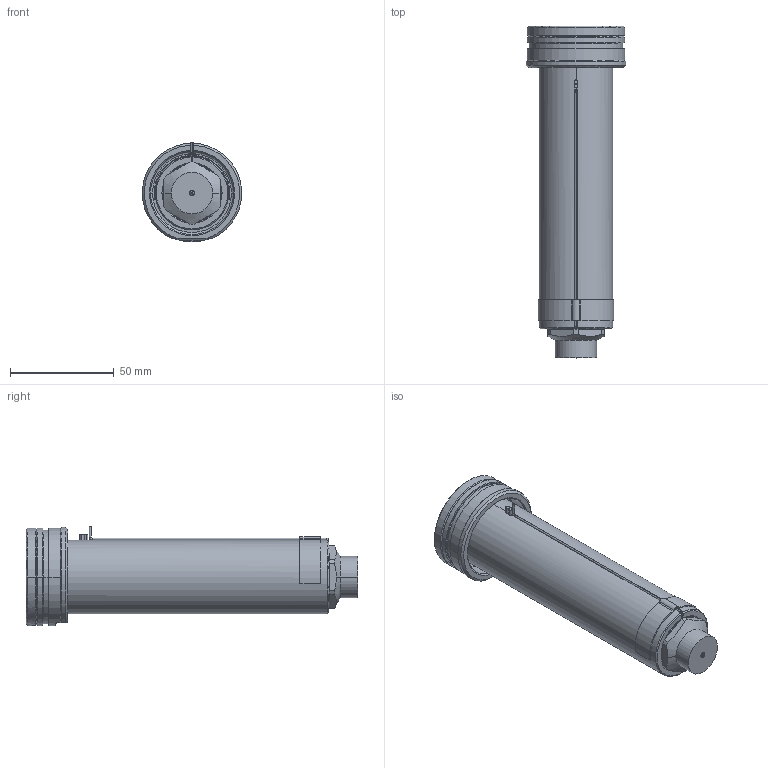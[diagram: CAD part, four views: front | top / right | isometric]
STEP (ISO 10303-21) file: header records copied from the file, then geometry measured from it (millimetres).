
FILE_DESCRIPTION((''),'2;1');
FILE_NAME('EO16_PG-FB_WR_140_SW','2024-02-19T11:43:51',('sundharh'),(''),'CREO PARAMETRIC BY PTC INC, 2023154','CREO PARAMETRIC BY PTC INC, 2023154','');
FILE_SCHEMA(('CONFIG_CONTROL_DESIGN'));
Length unit declared in the file: millimetre
Products named in the file (1): EO16_PG-FB_WR_140_SW
Bounding box: 47.97 x 160 x 48 mm (x, y, z)
Volume: 133908.7 mm3; surface area: 35651.9 mm2
Topology: 1 solids, 1 shells, 205 faces, 538 edges, 331 vertices
Faces by surface type: cylinder 81, plane 59, cone 41, torus 14, bspline 7, sphere 3
Entity records: 7466 total; most frequent: CARTESIAN_POINT 2316, DIRECTION 1139, ORIENTED_EDGE 1060, EDGE_CURVE 530, AXIS2_PLACEMENT_3D 475, VERTEX_POINT 331, CIRCLE 277, EDGE_LOOP 223
